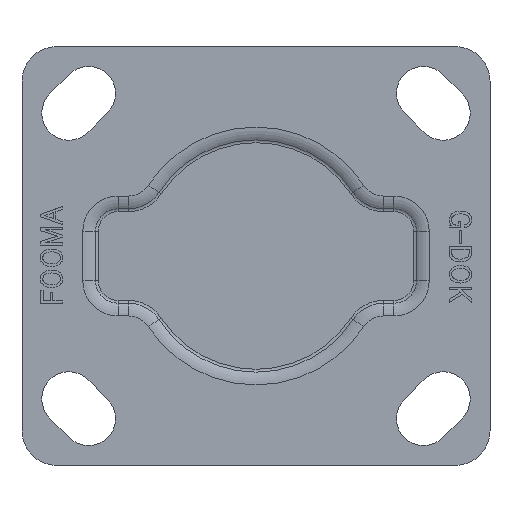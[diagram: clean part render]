
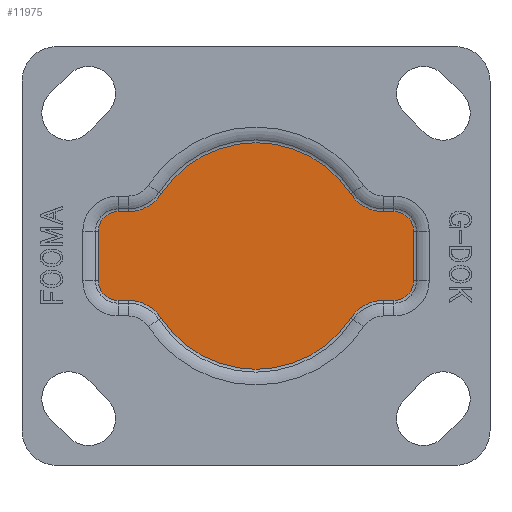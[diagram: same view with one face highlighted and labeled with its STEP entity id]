
A CAD part, top view. The second image highlights one B-rep face of the part: STEP entity #11975.
In plain terms, the highlighted planar face has unit normal (0, 0, 1).
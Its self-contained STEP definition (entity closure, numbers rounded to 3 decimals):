
#1549=FACE_OUTER_BOUND('',#2287,.T.);
#2287=EDGE_LOOP('',(#10278,#10279,#10280,#10281,#10282,#10283,#10284,#10285,
#10286,#10287,#10288,#10289,#10290,#10291,#10292,#10293));
#3218=LINE('',#20917,#4085);
#3219=LINE('',#20925,#4086);
#3220=LINE('',#20933,#4087);
#3221=LINE('',#20950,#4088);
#3222=LINE('',#20958,#4089);
#3223=LINE('',#20969,#4090);
#4085=VECTOR('',#15135,5.);
#4086=VECTOR('',#15146,5.);
#4087=VECTOR('',#15157,5.);
#4088=VECTOR('',#15182,5.);
#4089=VECTOR('',#15193,5.);
#4090=VECTOR('',#15210,5.);
#4345=CIRCLE('',#12742,23.);
#4347=CIRCLE('',#12745,8.);
#4350=CIRCLE('',#12750,4.);
#4353=CIRCLE('',#12755,4.);
#4356=CIRCLE('',#12760,8.);
#4358=CIRCLE('',#12764,23.);
#4360=CIRCLE('',#12767,8.);
#4363=CIRCLE('',#12772,4.);
#4367=CIRCLE('',#12778,8.);
#4368=CIRCLE('',#12780,4.);
#5445=VERTEX_POINT('',#20906);
#5446=VERTEX_POINT('',#20908);
#5447=VERTEX_POINT('',#20912);
#5448=VERTEX_POINT('',#20916);
#5449=VERTEX_POINT('',#20920);
#5450=VERTEX_POINT('',#20924);
#5451=VERTEX_POINT('',#20928);
#5452=VERTEX_POINT('',#20932);
#5453=VERTEX_POINT('',#20936);
#5454=VERTEX_POINT('',#20941);
#5455=VERTEX_POINT('',#20945);
#5456=VERTEX_POINT('',#20949);
#5457=VERTEX_POINT('',#20953);
#5458=VERTEX_POINT('',#20957);
#5459=VERTEX_POINT('',#20961);
#5460=VERTEX_POINT('',#20965);
#7056=EDGE_CURVE('',#5446,#5445,#4345,.T.);
#7058=EDGE_CURVE('',#5447,#5446,#4347,.T.);
#7060=EDGE_CURVE('',#5448,#5447,#3218,.T.);
#7062=EDGE_CURVE('',#5449,#5448,#4350,.T.);
#7064=EDGE_CURVE('',#5450,#5449,#3219,.T.);
#7066=EDGE_CURVE('',#5451,#5450,#4353,.T.);
#7068=EDGE_CURVE('',#5452,#5451,#3220,.T.);
#7070=EDGE_CURVE('',#5453,#5452,#4356,.T.);
#7072=EDGE_CURVE('',#5454,#5453,#4358,.T.);
#7074=EDGE_CURVE('',#5455,#5454,#4360,.T.);
#7076=EDGE_CURVE('',#5456,#5455,#3221,.T.);
#7078=EDGE_CURVE('',#5457,#5456,#4363,.T.);
#7080=EDGE_CURVE('',#5458,#5457,#3222,.T.);
#7083=EDGE_CURVE('',#5445,#5459,#4367,.T.);
#7084=EDGE_CURVE('',#5460,#5458,#4368,.T.);
#7086=EDGE_CURVE('',#5459,#5460,#3223,.T.);
#10278=ORIENTED_EDGE('',*,*,#7068,.T.);
#10279=ORIENTED_EDGE('',*,*,#7066,.T.);
#10280=ORIENTED_EDGE('',*,*,#7064,.T.);
#10281=ORIENTED_EDGE('',*,*,#7062,.T.);
#10282=ORIENTED_EDGE('',*,*,#7060,.T.);
#10283=ORIENTED_EDGE('',*,*,#7058,.T.);
#10284=ORIENTED_EDGE('',*,*,#7056,.T.);
#10285=ORIENTED_EDGE('',*,*,#7083,.T.);
#10286=ORIENTED_EDGE('',*,*,#7086,.T.);
#10287=ORIENTED_EDGE('',*,*,#7084,.T.);
#10288=ORIENTED_EDGE('',*,*,#7080,.T.);
#10289=ORIENTED_EDGE('',*,*,#7078,.T.);
#10290=ORIENTED_EDGE('',*,*,#7076,.T.);
#10291=ORIENTED_EDGE('',*,*,#7074,.T.);
#10292=ORIENTED_EDGE('',*,*,#7072,.T.);
#10293=ORIENTED_EDGE('',*,*,#7070,.T.);
#10697=PLANE('',#12783);
#11975=ADVANCED_FACE('',(#1549),#10697,.T.);
#12742=AXIS2_PLACEMENT_3D('',#20909,#15123,#15124);
#12745=AXIS2_PLACEMENT_3D('',#20913,#15129,#15130);
#12750=AXIS2_PLACEMENT_3D('',#20921,#15140,#15141);
#12755=AXIS2_PLACEMENT_3D('',#20929,#15151,#15152);
#12760=AXIS2_PLACEMENT_3D('',#20937,#15162,#15163);
#12764=AXIS2_PLACEMENT_3D('',#20942,#15170,#15171);
#12767=AXIS2_PLACEMENT_3D('',#20946,#15176,#15177);
#12772=AXIS2_PLACEMENT_3D('',#20954,#15187,#15188);
#12778=AXIS2_PLACEMENT_3D('',#20963,#15200,#15201);
#12780=AXIS2_PLACEMENT_3D('',#20966,#15204,#15205);
#12783=AXIS2_PLACEMENT_3D('',#20970,#15211,#15212);
#15123=DIRECTION('center_axis',(0.,0.,1.));
#15124=DIRECTION('ref_axis',(-0.836,-0.548,0.));
#15129=DIRECTION('center_axis',(0.,0.,-1.));
#15130=DIRECTION('ref_axis',(0.,1.,0.));
#15135=DIRECTION('',(-1.,0.,0.));
#15140=DIRECTION('center_axis',(0.,0.,1.));
#15141=DIRECTION('ref_axis',(-1.,0.,0.));
#15146=DIRECTION('',(0.,1.,0.));
#15151=DIRECTION('center_axis',(0.,0.,1.));
#15152=DIRECTION('ref_axis',(0.,1.,0.));
#15157=DIRECTION('',(1.,0.,0.));
#15162=DIRECTION('center_axis',(0.,0.,-1.));
#15163=DIRECTION('ref_axis',(0.,-1.,0.));
#15170=DIRECTION('center_axis',(0.,0.,1.));
#15171=DIRECTION('ref_axis',(-0.836,0.548,0.));
#15176=DIRECTION('center_axis',(0.,0.,-1.));
#15177=DIRECTION('ref_axis',(-0.836,-0.548,0.));
#15182=DIRECTION('',(1.,0.,0.));
#15187=DIRECTION('center_axis',(0.,0.,1.));
#15188=DIRECTION('ref_axis',(0.,1.,0.));
#15193=DIRECTION('',(0.,-1.,0.));
#15200=DIRECTION('center_axis',(0.,0.,-1.));
#15201=DIRECTION('ref_axis',(-0.836,0.548,0.));
#15204=DIRECTION('center_axis',(0.,0.,1.));
#15205=DIRECTION('ref_axis',(1.,0.,0.));
#15210=DIRECTION('',(-1.,0.,0.));
#15211=DIRECTION('center_axis',(0.,0.,1.));
#15212=DIRECTION('ref_axis',(1.,0.,0.));
#20906=CARTESIAN_POINT('',(-19.233,12.613,-1.));
#20908=CARTESIAN_POINT('',(19.233,12.613,-1.));
#20909=CARTESIAN_POINT('Origin',(0.,0.,-1.));
#20912=CARTESIAN_POINT('',(25.923,9.,-1.));
#20913=CARTESIAN_POINT('Origin',(25.923,17.,-1.));
#20916=CARTESIAN_POINT('',(28.,9.,-1.));
#20917=CARTESIAN_POINT('',(-14.,9.,-1.));
#20920=CARTESIAN_POINT('',(32.,5.,-1.));
#20921=CARTESIAN_POINT('Origin',(28.,5.,-1.));
#20924=CARTESIAN_POINT('',(32.,-5.,-1.));
#20925=CARTESIAN_POINT('',(32.,2.5,-1.));
#20928=CARTESIAN_POINT('',(28.,-9.,-1.));
#20929=CARTESIAN_POINT('Origin',(28.,-5.,-1.));
#20932=CARTESIAN_POINT('',(25.923,-9.,-1.));
#20933=CARTESIAN_POINT('',(14.,-9.,-1.));
#20936=CARTESIAN_POINT('',(19.233,-12.613,-1.));
#20937=CARTESIAN_POINT('Origin',(25.923,-17.,-1.));
#20941=CARTESIAN_POINT('',(-19.233,-12.613,-1.));
#20942=CARTESIAN_POINT('Origin',(0.,0.,-1.));
#20945=CARTESIAN_POINT('',(-25.923,-9.,-1.));
#20946=CARTESIAN_POINT('Origin',(-25.923,-17.,-1.));
#20949=CARTESIAN_POINT('',(-28.,-9.,-1.));
#20950=CARTESIAN_POINT('',(14.,-9.,-1.));
#20953=CARTESIAN_POINT('',(-32.,-5.,-1.));
#20954=CARTESIAN_POINT('Origin',(-28.,-5.,-1.));
#20957=CARTESIAN_POINT('',(-32.,5.,-1.));
#20958=CARTESIAN_POINT('',(-32.,-2.5,-1.));
#20961=CARTESIAN_POINT('',(-25.923,9.,-1.));
#20963=CARTESIAN_POINT('Origin',(-25.923,17.,-1.));
#20965=CARTESIAN_POINT('',(-28.,9.,-1.));
#20966=CARTESIAN_POINT('Origin',(-28.,5.,-1.));
#20969=CARTESIAN_POINT('',(-14.,9.,-1.));
#20970=CARTESIAN_POINT('Origin',(0.,0.,-1.));
